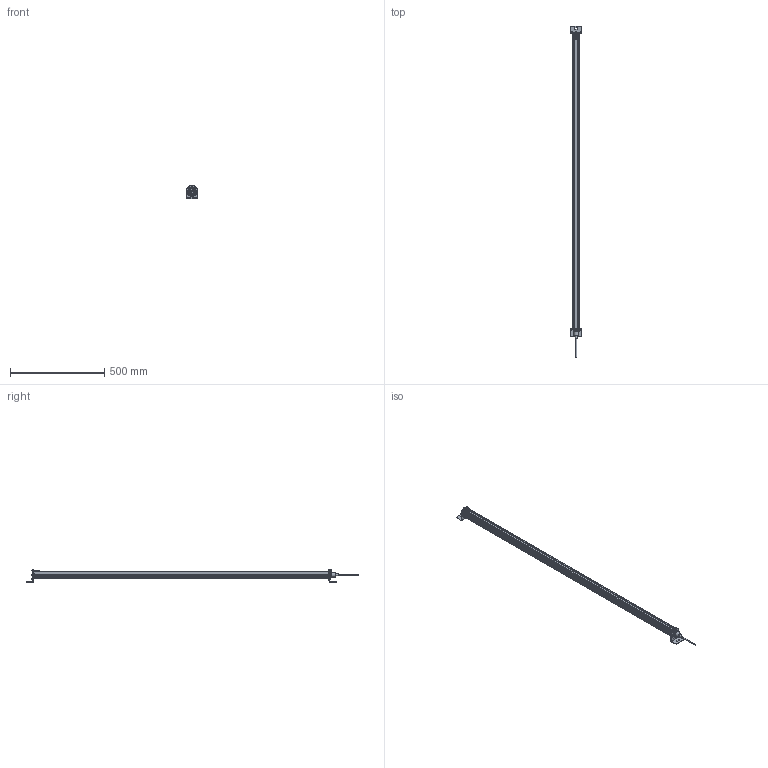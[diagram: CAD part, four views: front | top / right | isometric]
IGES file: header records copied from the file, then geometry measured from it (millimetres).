
Global section: file name: MG-60-PYLON_3D_SMB; native system: AutoCAD 2018 - English; preprocessor: Autodesk Translation Framework DWG producer (atf_dwg_producer); organization: unknown; date: 20180612.085959; units: inch
Bounding box: 57.29 x 1763.84 x 69.85 mm (x, y, z)
Volume: 631948.2 mm3; surface area: 620723.2 mm2
Topology: 30 solids, 30 shells, 766 faces, 1808 edges, 1155 vertices
Faces by surface type: bspline 766
